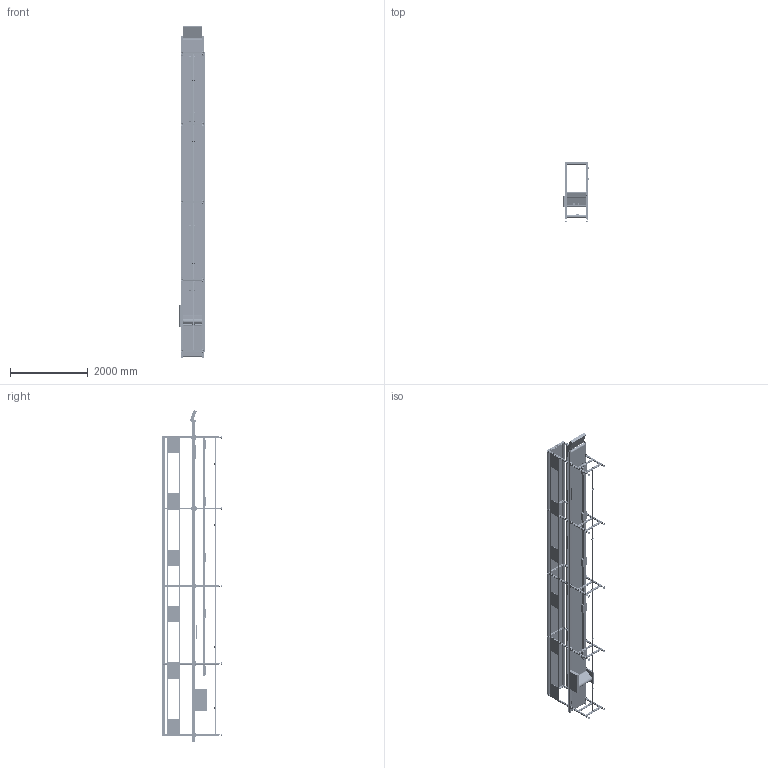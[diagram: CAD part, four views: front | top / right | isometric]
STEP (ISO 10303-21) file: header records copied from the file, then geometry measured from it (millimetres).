
FILE_DESCRIPTION(/* description */ (''),/* implementation_level */ '2;1');
FILE_NAME(/* name */ 'beltconveyor_a086_w500_l8200.stp',/* time_stamp */ '2025-01-01T20:42:18+08:00',/* author */ (''),/* organization */ (''),/* preprocessor_version */ 'ST-DEVELOPER v16.7',/* originating_system */ 'SIEMENS PLM Software NX 12.0',/* authorisation */ '');
FILE_SCHEMA (('AUTOMOTIVE_DESIGN { 1 0 10303 214 3 1 1 1 }'));
Products named in the file (37): M12从动滚筒; M14从动滚筒轴; M15张紧滚筒轴; M13张紧滚筒; M6004轴承; M01支腿立柱; MRB脚杯; M27气管; M29气管短; M28 四通; M02支腿横梁; M40x40铝型材连接角码; M05上支架立柱; M26线槽; M21接驳板; M25驱动板罩; M20仪表台; M08驱动板; MUCFL204; M18工艺卡型材; M07马达板; M24马达罩; M04导轨; M11主动滚筒; M16张紧板; M公牛GN-403插线板; M19工艺看板; M17皮带; M10仪表台托架A; M09仪表台托架; M23 主动链轮08B21T; M14-00从动滚筒; M13-00张紧滚筒; M03支腿; M气管联接; M06上支架; beltconveyor_a086_w500_l8200
Assembly tree (103 placements, depth 3):
  beltconveyor_a086_w500_l8200
    M23 主动链轮08B21T
    M09仪表台托架  x4
    M10仪表台托架A  x4
    M17皮带
    M19工艺看板  x12
    M公牛GN-403插线板  x10
    M16张紧板  x4
    M06上支架  x5
      M05上支架立柱
      M40x40铝型材连接角码
      M02支腿横梁
    M气管联接
      M28 四通  x5
      M29气管短  x2
      M27气管  x4
    M11主动滚筒
    M04导轨  x2
    M24马达罩
    M03支腿  x5
      M02支腿横梁
      MRB脚杯
      M01支腿立柱
      M40x40铝型材连接角码
    M13-00张紧滚筒  x2
      M6004轴承
      M13张紧滚筒
      M15张紧滚筒轴
    M07马达板
    M18工艺卡型材  x4
    MUCFL204  x2
    M08驱动板
    M20仪表台
    M25驱动板罩
    M14-00从动滚筒  x2
      M14从动滚筒轴
      M12从动滚筒
      M6004轴承
    M21接驳板
    M26线槽
Bounding box: 644 x 1520 x 8543.88 mm (x, y, z)
Volume: 172489895.7 mm3; surface area: 71508497.5 mm2
Topology: 262 solids, 262 shells, 14023 faces, 37028 edges, 24040 vertices
Faces by surface type: plane 8311, cylinder 3310, extrusion 984, bspline 754, torus 473, cone 191
Entity records: 109002 total; most frequent: CARTESIAN_POINT 36132, ORIENTED_EDGE 15420, DIRECTION 12472, EDGE_CURVE 7710, VERTEX_POINT 5006, VECTOR 4776, LINE 4284, AXIS2_PLACEMENT_3D 3848
